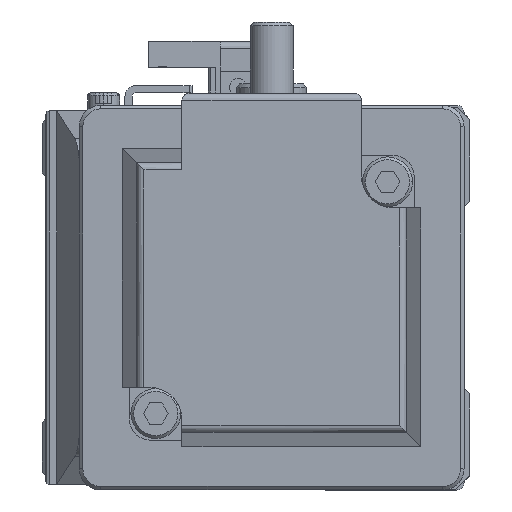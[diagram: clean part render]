
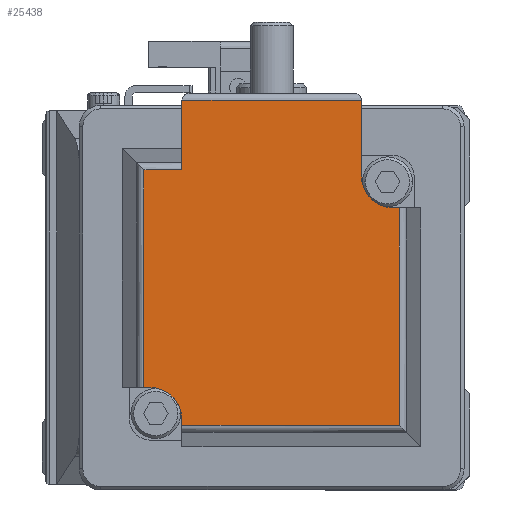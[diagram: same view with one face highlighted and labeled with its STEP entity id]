
A CAD part, left-side view. The second image highlights one B-rep face of the part: STEP entity #25438.
In plain terms, the highlighted planar face has unit normal (-1, 0, 0) as drawn and (0, 1, 0) by its records, which use the part's own axes.
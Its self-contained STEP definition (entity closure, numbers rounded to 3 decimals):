
#282 = EDGE_CURVE ( 'NONE', #1410, #7529, #26469, .T. ) ;
#556 = CARTESIAN_POINT ( 'NONE',  ( -12.6, 100.6, -21. ) ) ;
#656 = LINE ( 'NONE', #4723, #25510 ) ;
#691 = CARTESIAN_POINT ( 'NONE',  ( 12.6, 100.6, 25. ) ) ;
#968 = CARTESIAN_POINT ( 'NONE',  ( -17.1, 100.6, -12.6 ) ) ;
#1410 = VERTEX_POINT ( 'NONE', #19077 ) ;
#1561 = VECTOR ( 'NONE', #13831, 1000. ) ;
#1669 = EDGE_CURVE ( 'NONE', #2344, #16769, #24813, .T. ) ;
#2070 = AXIS2_PLACEMENT_3D ( 'NONE', #13869, #25101, #16748 ) ;
#2344 = VERTEX_POINT ( 'NONE', #23750 ) ;
#2480 = VERTEX_POINT ( 'NONE', #5897 ) ;
#2809 = ORIENTED_EDGE ( 'NONE', *, *, #15684, .F. ) ;
#2959 = EDGE_CURVE ( 'NONE', #29473, #1410, #8321, .T. ) ;
#3157 = VERTEX_POINT ( 'NONE', #12347 ) ;
#3194 = DIRECTION ( 'NONE',  ( 0., 0., 1. ) ) ;
#3868 = ORIENTED_EDGE ( 'NONE', *, *, #2959, .T. ) ;
#3938 = LINE ( 'NONE', #12746, #33791 ) ;
#4056 = LINE ( 'NONE', #22939, #31414 ) ;
#4716 = ORIENTED_EDGE ( 'NONE', *, *, #23753, .F. ) ;
#4723 = CARTESIAN_POINT ( 'NONE',  ( 17.929, 100.6, -12.6 ) ) ;
#4936 = DIRECTION ( 'NONE',  ( 0., 1., 0. ) ) ;
#5026 = VERTEX_POINT ( 'NONE', #6622 ) ;
#5406 = ORIENTED_EDGE ( 'NONE', *, *, #6307, .F. ) ;
#5423 = CIRCLE ( 'NONE', #10320, 4.5 ) ;
#5897 = CARTESIAN_POINT ( 'NONE',  ( 12.6, 100.6, 17.929 ) ) ;
#5996 = DIRECTION ( 'NONE',  ( 0., 0., 1. ) ) ;
#6307 = EDGE_CURVE ( 'NONE', #2480, #2344, #17663, .T. ) ;
#6442 = CARTESIAN_POINT ( 'NONE',  ( -12.6, 100.6, -17.929 ) ) ;
#6509 = LINE ( 'NONE', #19652, #33887 ) ;
#6622 = CARTESIAN_POINT ( 'NONE',  ( 27.7, 100.6, -12.6 ) ) ;
#7030 = ORIENTED_EDGE ( 'NONE', *, *, #25227, .F. ) ;
#7529 = VERTEX_POINT ( 'NONE', #968 ) ;
#7568 = DIRECTION ( 'NONE',  ( 0., 0., 1. ) ) ;
#7761 = CARTESIAN_POINT ( 'NONE',  ( -17.929, 100.6, 25. ) ) ;
#8037 = LINE ( 'NONE', #691, #28368 ) ;
#8321 = LINE ( 'NONE', #556, #23288 ) ;
#8491 = EDGE_CURVE ( 'NONE', #17841, #27449, #5423, .T. ) ;
#8553 = CARTESIAN_POINT ( 'NONE',  ( 17.929, 100.6, 25. ) ) ;
#9542 = ORIENTED_EDGE ( 'NONE', *, *, #282, .T. ) ;
#9734 = ORIENTED_EDGE ( 'NONE', *, *, #22533, .F. ) ;
#10320 = AXIS2_PLACEMENT_3D ( 'NONE', #29026, #4936, #23689 ) ;
#10346 = CARTESIAN_POINT ( 'NONE',  ( 27.7, 100.6, 25. ) ) ;
#10380 = CARTESIAN_POINT ( 'NONE',  ( 17.1, 100.6, 12.6 ) ) ;
#10773 = VERTEX_POINT ( 'NONE', #26455 ) ;
#11558 = VECTOR ( 'NONE', #31381, 1000. ) ;
#11805 = DIRECTION ( 'NONE',  ( 0., 0., 1. ) ) ;
#12103 = ORIENTED_EDGE ( 'NONE', *, *, #13501, .F. ) ;
#12347 = CARTESIAN_POINT ( 'NONE',  ( 27.7, 100.6, 12.6 ) ) ;
#12599 = FACE_OUTER_BOUND ( 'NONE', #27564, .T. ) ;
#12746 = CARTESIAN_POINT ( 'NONE',  ( 17.929, 100.6, -12.6 ) ) ;
#13501 = EDGE_CURVE ( 'NONE', #5026, #3157, #24776, .T. ) ;
#13831 = DIRECTION ( 'NONE',  ( -1., 0., 0. ) ) ;
#13869 = CARTESIAN_POINT ( 'NONE',  ( -17.1, 100.6, -17.1 ) ) ;
#13876 = DIRECTION ( 'NONE',  ( 0., -1., 0. ) ) ;
#14932 = CARTESIAN_POINT ( 'NONE',  ( -17.929, 100.6, -12.6 ) ) ;
#15350 = ORIENTED_EDGE ( 'NONE', *, *, #1669, .F. ) ;
#15684 = EDGE_CURVE ( 'NONE', #16769, #7529, #656, .T. ) ;
#16179 = CARTESIAN_POINT ( 'NONE',  ( 17.929, 100.6, -17.929 ) ) ;
#16400 = DIRECTION ( 'NONE',  ( 0., 0., -1. ) ) ;
#16465 = VECTOR ( 'NONE', #7568, 1000. ) ;
#16748 = DIRECTION ( 'NONE',  ( 0., 0., -1. ) ) ;
#16769 = VERTEX_POINT ( 'NONE', #14932 ) ;
#17663 = LINE ( 'NONE', #27289, #1561 ) ;
#17841 = VERTEX_POINT ( 'NONE', #10380 ) ;
#19077 = CARTESIAN_POINT ( 'NONE',  ( -12.6, 100.6, -17.1 ) ) ;
#19652 = CARTESIAN_POINT ( 'NONE',  ( 17.929, 100.6, 25. ) ) ;
#22533 = EDGE_CURVE ( 'NONE', #3157, #17841, #32722, .T. ) ;
#22777 = DIRECTION ( 'NONE',  ( 1., 0., 0. ) ) ;
#22939 = CARTESIAN_POINT ( 'NONE',  ( 17.929, 100.6, -17.929 ) ) ;
#23249 = EDGE_CURVE ( 'NONE', #29473, #26805, #4056, .T. ) ;
#23288 = VECTOR ( 'NONE', #3194, 1000. ) ;
#23485 = CARTESIAN_POINT ( 'NONE',  ( 17.929, 100.6, 12.6 ) ) ;
#23589 = CARTESIAN_POINT ( 'NONE',  ( 12.6, 100.6, 17.1 ) ) ;
#23689 = DIRECTION ( 'NONE',  ( 0., 0., -1. ) ) ;
#23750 = CARTESIAN_POINT ( 'NONE',  ( -17.929, 100.6, 17.929 ) ) ;
#23753 = EDGE_CURVE ( 'NONE', #26805, #10773, #6509, .T. ) ;
#23803 = AXIS2_PLACEMENT_3D ( 'NONE', #8553, #13876, #16400 ) ;
#24536 = PLANE ( 'NONE',  #23803 ) ;
#24776 = LINE ( 'NONE', #10346, #16465 ) ;
#24813 = LINE ( 'NONE', #7761, #27693 ) ;
#25101 = DIRECTION ( 'NONE',  ( 0., -1., 0. ) ) ;
#25227 = EDGE_CURVE ( 'NONE', #10773, #5026, #3938, .T. ) ;
#25266 = ORIENTED_EDGE ( 'NONE', *, *, #25488, .F. ) ;
#25438 = ADVANCED_FACE ( 'NONE', ( #12599 ), #24536, .F. ) ;
#25488 = EDGE_CURVE ( 'NONE', #27449, #2480, #8037, .T. ) ;
#25510 = VECTOR ( 'NONE', #22777, 1000. ) ;
#26455 = CARTESIAN_POINT ( 'NONE',  ( 17.929, 100.6, -12.6 ) ) ;
#26469 = CIRCLE ( 'NONE', #2070, 4.5 ) ;
#26805 = VERTEX_POINT ( 'NONE', #16179 ) ;
#27289 = CARTESIAN_POINT ( 'NONE',  ( 17.929, 100.6, 17.929 ) ) ;
#27449 = VERTEX_POINT ( 'NONE', #23589 ) ;
#27564 = EDGE_LOOP ( 'NONE', ( #9734, #12103, #7030, #4716, #27939, #3868, #9542, #2809, #15350, #5406, #25266, #27623 ) ) ;
#27623 = ORIENTED_EDGE ( 'NONE', *, *, #8491, .F. ) ;
#27693 = VECTOR ( 'NONE', #28965, 1000. ) ;
#27939 = ORIENTED_EDGE ( 'NONE', *, *, #23249, .F. ) ;
#28283 = DIRECTION ( 'NONE',  ( 1., 0., 0. ) ) ;
#28368 = VECTOR ( 'NONE', #5996, 1000. ) ;
#28965 = DIRECTION ( 'NONE',  ( 0., 0., -1. ) ) ;
#29026 = CARTESIAN_POINT ( 'NONE',  ( 17.1, 100.6, 17.1 ) ) ;
#29473 = VERTEX_POINT ( 'NONE', #6442 ) ;
#31298 = DIRECTION ( 'NONE',  ( 1., 0., 0. ) ) ;
#31381 = DIRECTION ( 'NONE',  ( -1., 0., 0. ) ) ;
#31414 = VECTOR ( 'NONE', #28283, 1000. ) ;
#32722 = LINE ( 'NONE', #23485, #11558 ) ;
#33791 = VECTOR ( 'NONE', #31298, 1000. ) ;
#33887 = VECTOR ( 'NONE', #11805, 1000. ) ;
